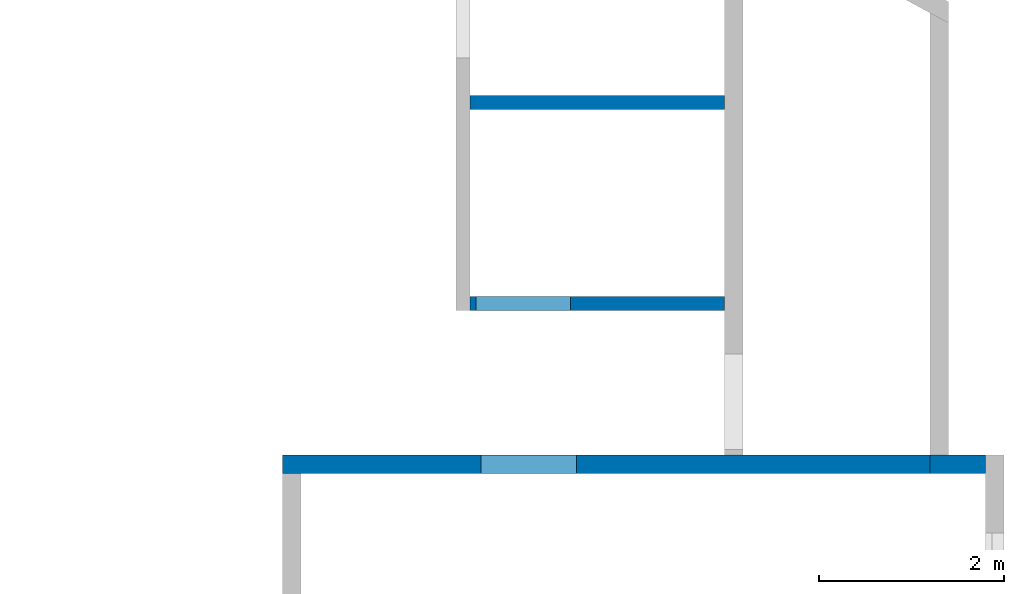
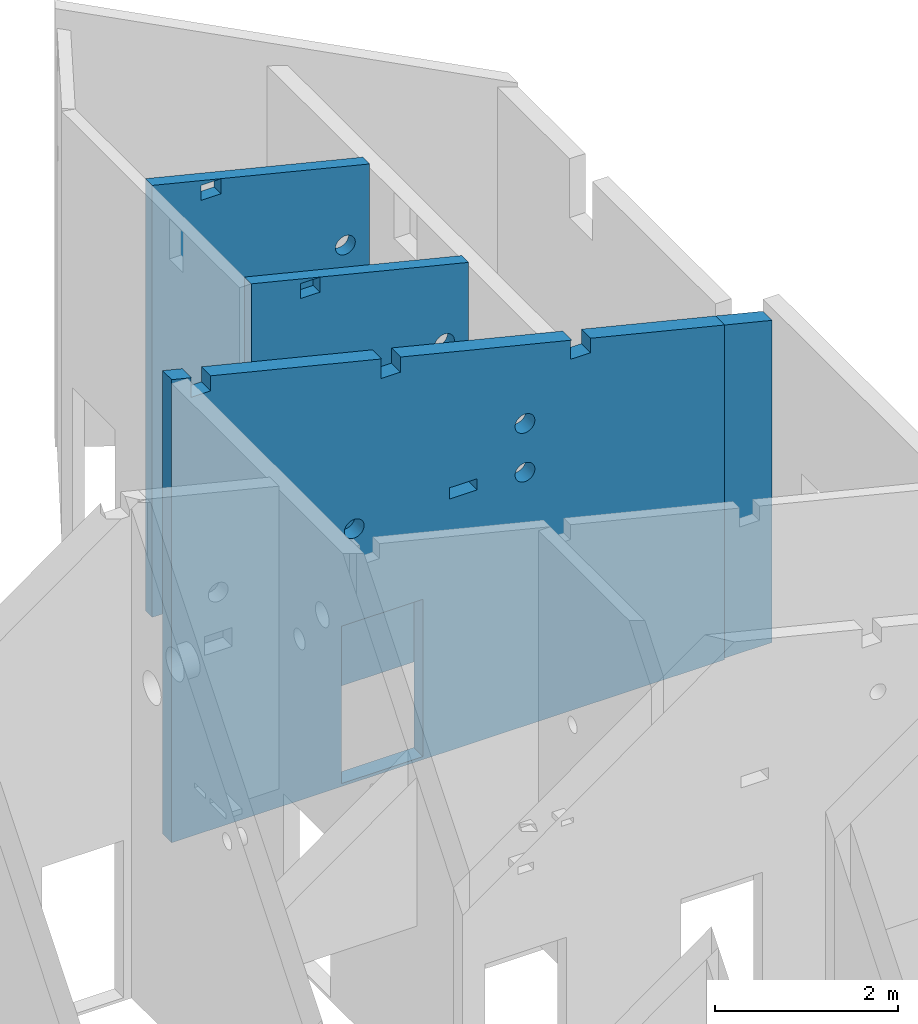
# One storey, part 11 of 13: 4 walls, 16 openings.
"""IFC2X3 building model written with IfcOpenShell, lengths in metres."""

from ifc_helpers import new_model, entity, si_unit, converted_unit, direction, frame, frame_2d, origin, origin_with_axes, place, context, subcontext, project, spatial, polyline, rectangle, outline, extrude, clip, halfspace, material, layer, layer_set, layer_usage, element, save


model = new_model("IFC2X3")

# Units and contexts
model_context = context("Model", 3, precision=1e-05, world=origin(), true_north=direction((-0.407059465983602, -0.913401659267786)))
body_context = subcontext(model_context, "Body", "Model", "MODEL_VIEW")
ifc_project = project(units=[si_unit("LENGTHUNIT", "METRE"), si_unit("AREAUNIT", "SQUARE_METRE"), si_unit("VOLUMEUNIT", "CUBIC_METRE"), si_unit("MASSUNIT", "GRAM", prefix="KILO"), converted_unit("PLANEANGLEUNIT", "DEGREE", entity("IfcPlaneAngleMeasure", 0.0174532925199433), si_unit("PLANEANGLEUNIT", "RADIAN"), dimensions=[0, 0, 0, 0, 0, 0, 0])], contexts=[model_context])

# Site, buildings, storey
site_placement = place(None, origin())
site = spatial("IfcSite", under=ifc_project, at=site_placement, Name="Site", CompositionType="ELEMENT")
building_1_placement = place(site_placement, origin())
building_1 = spatial("IfcBuilding", under=site, at=building_1_placement, Name="Site", CompositionType="COMPLEX")
building_2_placement = place(building_1_placement, origin())
building_2 = spatial("IfcBuilding", under=building_1, at=building_2_placement, Name="Bâtiments", CompositionType="ELEMENT")
storey_placement = place(building_2_placement, frame((0.0, 0.0, -0.14)))
storey = spatial("IfcBuildingStorey", under=building_2, at=storey_placement, Name="RDC", CompositionType="ELEMENT", Elevation=-0.14)

# Wall, openings
ifc_material_1 = material(Name="Mur_Maconnerie")
ifc_layer_1 = layer(ifc_material_1, 0.15)
ifc_layer_set_1 = layer_set([ifc_layer_1])
ifc_layer_usage_1 = layer_usage(ifc_layer_set_1, "AXIS2", "POSITIVE", 0.0)
wall_1_placement = place(storey_placement, frame((72.2539888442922, -1.33517329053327, 0.02)))
wall_1 = element("IfcWallStandardCase", 1, at=wall_1_placement, inside=storey, material=ifc_layer_usage_1, context=body_context, shape_type="Clipping", body=[
    clip(extrude(rectangle(XDim=2.74331442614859, YDim=0.15, at=frame_2d((1.37165721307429, 0.075), x_axis=(1.0, 0.0))), origin_with_axes(), (0.0, 0.0, 1.0), 5.764675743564), halfspace(frame((1.37165721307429, 0.075, 5.42776441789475), z_axis=(-0.238533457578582, 0.0, -0.971134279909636), x_axis=(0.971134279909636, 0.0, -0.238533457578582)), True)),
])
opening_1_placement = place(wall_1_placement, frame((1.08616814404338, 0.15, 0.12), z_axis=(0.0, -1.0, 0.0), x_axis=(0.0, 0.0, 1.0)))
element("IfcOpeningElement", 2, at=opening_1_placement, cuts=wall_1, Name="Baie de porte", ObjectType="Opening", context=body_context, shape_type="SweptSolid", body=[
    extrude(outline(polyline([(0.0, 1.02), (2.1, 1.02), (2.1, 0.0), (0.0, 0.0), (0.0, 1.02)])), origin_with_axes(), (0.0, 0.0, 1.0), 0.15),
])
opening_2_placement = place(wall_1_placement, frame((2.56315539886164, 0.149999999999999, 3.34), z_axis=(0.0, -1.0, 0.0), x_axis=(0.0, 0.0, 1.0)))
element("IfcOpeningElement", 3, at=opening_2_placement, cuts=wall_1, Name="CVC-076", ObjectType="Opening", context=body_context, shape_type="SweptSolid", body=[
    extrude(outline(polyline([(0.124999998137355, 0.25), (0.138066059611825, 0.249315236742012), (0.150988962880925, 0.24726844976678), (0.163627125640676, 0.243882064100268), (0.175842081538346, 0.239193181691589), (0.187500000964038, 0.233253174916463), (0.198473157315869, 0.226127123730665), (0.208641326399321, 0.217893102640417), (0.217893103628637, 0.208641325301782), (0.226127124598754, 0.19847315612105), (0.233253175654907, 0.187499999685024), (0.239193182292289, 0.175842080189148), (0.243882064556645, 0.163627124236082), (0.24726845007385, 0.15098896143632), (0.249315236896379, 0.138066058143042), (0.25, 0.125000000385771), (0.249315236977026, 0.11193394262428), (0.24726845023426, 0.0990110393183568), (0.243882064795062, 0.086372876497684), (0.2391931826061, 0.0741579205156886), (0.233253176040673, 0.0625000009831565), (0.22612712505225, 0.0515268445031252), (0.217893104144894, 0.0413586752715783), (0.208641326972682, 0.0321068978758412), (0.198473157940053, 0.0238728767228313), (0.187500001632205, 0.0167468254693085), (0.175842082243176, 0.0108068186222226), (0.163627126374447, 0.00611793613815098), (0.150988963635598, 0.00273155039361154), (0.138066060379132, 0.000684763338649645), (0.124999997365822, 0.0), (0.111933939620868, 0.000684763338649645), (0.0990110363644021, 0.00273155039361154), (0.0863728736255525, 0.00611793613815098), (0.0741579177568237, 0.0108068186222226), (0.0624999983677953, 0.0167468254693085), (0.0515268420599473, 0.0238728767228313), (0.0413586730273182, 0.0321068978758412), (0.0321068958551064, 0.0413586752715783), (0.0238728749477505, 0.0515268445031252), (0.0167468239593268, 0.0625000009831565), (0.0108068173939, 0.0741579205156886), (0.00611793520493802, 0.086372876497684), (0.0027315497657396, 0.0990110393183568), (0.000684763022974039, 0.11193394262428), (0.0, 0.125000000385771), (0.000684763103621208, 0.138066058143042), (0.00273154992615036, 0.15098896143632), (0.00611793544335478, 0.163627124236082), (0.0108068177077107, 0.175842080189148), (0.016746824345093, 0.187499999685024), (0.0238728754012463, 0.19847315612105), (0.0321068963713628, 0.208641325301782), (0.0413586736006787, 0.217893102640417), (0.0515268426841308, 0.226127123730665), (0.0624999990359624, 0.233253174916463), (0.0741579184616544, 0.239193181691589), (0.0863728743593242, 0.243882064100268), (0.0990110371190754, 0.24726844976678), (0.111933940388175, 0.249315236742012), (0.124999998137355, 0.25)])), origin_with_axes(), (0.0, 0.0, 1.0), 0.15),
])
opening_3_placement = place(wall_1_placement, frame((2.31315539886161, 0.0, 3.99), z_axis=(0.0, 1.0, 0.0), x_axis=(0.0, 0.0, 1.0)))
element("IfcOpeningElement", 4, at=opening_3_placement, cuts=wall_1, Name="CVC-072", ObjectType="Opening", context=body_context, shape_type="SweptSolid", body=[
    extrude(outline(polyline([(0.125, 0.0), (0.111933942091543, 0.000684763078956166), (0.09901103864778, 0.00273154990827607), (0.0863728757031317, 0.00611793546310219), (0.0741579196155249, 0.0108068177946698), (0.0625, 0.0167468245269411), (0.0515268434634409, 0.0238728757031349), (0.041358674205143, 0.0321068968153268), (0.0321068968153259, 0.0413586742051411), (0.0238728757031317, 0.0515268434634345), (0.0167468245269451, 0.0625), (0.0108068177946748, 0.0741579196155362), (0.00611793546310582, 0.0863728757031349), (0.00273154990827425, 0.09901103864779), (0.000684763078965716, 0.111933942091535), (0.0, 0.125), (0.000684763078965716, 0.138066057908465), (0.00273154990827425, 0.150988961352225), (0.00611793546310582, 0.163627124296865), (0.0108068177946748, 0.175842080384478), (0.0167468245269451, 0.1875), (0.0238728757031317, 0.198473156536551), (0.0321068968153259, 0.208641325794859), (0.0413586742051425, 0.217893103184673), (0.0515268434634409, 0.226127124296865), (0.0625, 0.233253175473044), (0.0741579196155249, 0.23919318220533), (0.0863728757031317, 0.243882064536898), (0.09901103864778, 0.247268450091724), (0.111933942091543, 0.249315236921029), (0.125, 0.25), (0.138066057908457, 0.249315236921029), (0.15098896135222, 0.247268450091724), (0.163627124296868, 0.243882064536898), (0.175842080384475, 0.23919318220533), (0.1875, 0.233253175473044), (0.198473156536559, 0.226127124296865), (0.208641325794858, 0.217893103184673), (0.217893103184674, 0.208641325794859), (0.226127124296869, 0.198473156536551), (0.233253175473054, 0.1875), (0.239193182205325, 0.175842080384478), (0.243882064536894, 0.163627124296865), (0.247268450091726, 0.150988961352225), (0.249315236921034, 0.138066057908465), (0.25, 0.125), (0.249315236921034, 0.111933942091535), (0.247268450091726, 0.09901103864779), (0.243882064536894, 0.0863728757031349), (0.239193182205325, 0.0741579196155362), (0.233253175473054, 0.0625), (0.226127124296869, 0.0515268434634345), (0.217893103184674, 0.0413586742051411), (0.208641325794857, 0.0321068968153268), (0.198473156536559, 0.0238728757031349), (0.1875, 0.0167468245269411), (0.175842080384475, 0.0108068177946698), (0.163627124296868, 0.00611793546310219), (0.15098896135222, 0.00273154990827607), (0.138066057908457, 0.000684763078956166), (0.125, 0.0)])), origin_with_axes(), (0.0, 0.0, 1.0), 0.15),
])
opening_4_placement = place(wall_1_placement, frame((0.618332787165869, 0.0, 5.35), z_axis=(0.0, 1.0, 0.0), x_axis=(0.0, 0.0, 1.0)))
element("IfcOpeningElement", 5, at=opening_4_placement, cuts=wall_1, Name="Percement dans mur", ObjectType="Opening", context=body_context, shape_type="SweptSolid", body=[
    extrude(outline(polyline([(0.0, 0.25), (0.2, 0.25), (0.2, 0.0), (0.0, 0.0), (0.0, 0.25)])), origin_with_axes(), (0.0, 0.0, 1.0), 0.15),
])
opening_5_placement = place(wall_1_placement, frame((1.48257735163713, 0.0, 3.44), z_axis=(0.0, 1.0, 0.0), x_axis=(0.0, 0.0, 1.0)))
element("IfcOpeningElement", 6, at=opening_5_placement, cuts=wall_1, Name="PB-RDC-22", ObjectType="Opening", context=body_context, shape_type="SweptSolid", body=[
    extrude(outline(polyline([(0.0, 0.35), (0.15, 0.35), (0.15, 0.0), (0.0, 0.0), (0.0, 0.35)])), origin_with_axes(), (0.0, 0.0, 1.0), 0.15),
])

ifc_material_2 = material(Name="Mur_Maconnerie")
ifc_layer_2 = layer(ifc_material_2, 0.15)
ifc_layer_set_2 = layer_set([ifc_layer_2])
ifc_layer_usage_2 = layer_usage(ifc_layer_set_2, "AXIS2", "POSITIVE", 0.0)
wall_2_placement = place(storey_placement, frame((72.2539888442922, 0.83056940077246, 0.02)))
wall_2 = element("IfcWallStandardCase", 7, at=wall_2_placement, inside=storey, material=ifc_layer_usage_2, context=body_context, shape_type="Clipping", body=[
    clip(extrude(rectangle(XDim=2.74331442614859, YDim=0.15, at=frame_2d((1.37165721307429, 0.075), x_axis=(1.0, 0.0))), origin_with_axes(), (0.0, 0.0, 1.0), 5.764675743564), halfspace(frame((1.37165721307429, 0.075, 5.42776441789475), z_axis=(-0.238533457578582, 0.0, -0.971134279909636), x_axis=(0.971134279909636, 0.0, -0.238533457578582)), True)),
])
opening_6_placement = place(wall_2_placement, frame((2.31315539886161, 1.81898940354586e-15, 3.34), z_axis=(0.0, 1.0, 0.0), x_axis=(0.0, 0.0, 1.0)))
element("IfcOpeningElement", 8, at=opening_6_placement, cuts=wall_2, Name="CVC-075", ObjectType="Opening", context=body_context, shape_type="SweptSolid", body=[
    extrude(outline(polyline([(0.125, 0.0), (0.111933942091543, 0.000684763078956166), (0.09901103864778, 0.00273154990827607), (0.0863728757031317, 0.00611793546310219), (0.0741579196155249, 0.0108068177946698), (0.0625, 0.0167468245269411), (0.0515268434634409, 0.0238728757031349), (0.041358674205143, 0.0321068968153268), (0.0321068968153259, 0.0413586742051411), (0.0238728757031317, 0.0515268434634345), (0.0167468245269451, 0.0625), (0.0108068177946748, 0.0741579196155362), (0.00611793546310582, 0.0863728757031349), (0.00273154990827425, 0.09901103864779), (0.000684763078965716, 0.111933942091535), (0.0, 0.125), (0.000684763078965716, 0.138066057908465), (0.00273154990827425, 0.150988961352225), (0.00611793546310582, 0.163627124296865), (0.0108068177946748, 0.175842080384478), (0.0167468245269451, 0.1875), (0.0238728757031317, 0.198473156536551), (0.0321068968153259, 0.208641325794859), (0.0413586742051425, 0.217893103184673), (0.0515268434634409, 0.226127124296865), (0.0625, 0.233253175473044), (0.0741579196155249, 0.23919318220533), (0.0863728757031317, 0.243882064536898), (0.09901103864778, 0.247268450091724), (0.111933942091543, 0.249315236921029), (0.125, 0.25), (0.138066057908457, 0.249315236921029), (0.15098896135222, 0.247268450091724), (0.163627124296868, 0.243882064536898), (0.175842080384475, 0.23919318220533), (0.1875, 0.233253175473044), (0.198473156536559, 0.226127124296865), (0.208641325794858, 0.217893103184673), (0.217893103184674, 0.208641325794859), (0.226127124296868, 0.198473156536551), (0.233253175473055, 0.1875), (0.239193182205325, 0.175842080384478), (0.243882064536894, 0.163627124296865), (0.247268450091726, 0.150988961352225), (0.249315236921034, 0.138066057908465), (0.25, 0.125), (0.249315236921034, 0.111933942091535), (0.247268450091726, 0.09901103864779), (0.243882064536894, 0.0863728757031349), (0.239193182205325, 0.0741579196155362), (0.233253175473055, 0.0625), (0.226127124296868, 0.0515268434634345), (0.217893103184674, 0.0413586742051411), (0.208641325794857, 0.0321068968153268), (0.198473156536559, 0.0238728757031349), (0.1875, 0.0167468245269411), (0.175842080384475, 0.0108068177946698), (0.163627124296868, 0.00611793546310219), (0.15098896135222, 0.00273154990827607), (0.138066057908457, 0.000684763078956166), (0.125, 0.0)])), origin_with_axes(), (0.0, 0.0, 1.0), 0.15),
])
opening_7_placement = place(wall_2_placement, frame((2.56315539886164, 0.15, 3.99), z_axis=(0.0, -1.0, 0.0), x_axis=(0.0, 0.0, 1.0)))
element("IfcOpeningElement", 9, at=opening_7_placement, cuts=wall_2, Name="CVC-071", ObjectType="Opening", context=body_context, shape_type="SweptSolid", body=[
    extrude(outline(polyline([(0.124999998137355, 0.25), (0.138066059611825, 0.249315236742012), (0.150988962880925, 0.24726844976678), (0.163627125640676, 0.243882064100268), (0.175842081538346, 0.239193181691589), (0.187500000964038, 0.233253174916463), (0.198473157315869, 0.226127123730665), (0.208641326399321, 0.217893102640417), (0.217893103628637, 0.208641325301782), (0.226127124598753, 0.19847315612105), (0.233253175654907, 0.187499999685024), (0.239193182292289, 0.175842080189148), (0.243882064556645, 0.163627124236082), (0.247268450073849, 0.15098896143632), (0.249315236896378, 0.138066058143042), (0.25, 0.125000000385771), (0.249315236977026, 0.11193394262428), (0.24726845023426, 0.0990110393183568), (0.243882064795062, 0.086372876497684), (0.2391931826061, 0.0741579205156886), (0.233253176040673, 0.0625000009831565), (0.226127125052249, 0.0515268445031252), (0.217893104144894, 0.0413586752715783), (0.208641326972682, 0.0321068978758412), (0.198473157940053, 0.0238728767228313), (0.187500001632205, 0.0167468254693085), (0.175842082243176, 0.0108068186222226), (0.163627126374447, 0.00611793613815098), (0.150988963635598, 0.00273155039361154), (0.138066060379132, 0.000684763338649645), (0.124999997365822, 0.0), (0.111933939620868, 0.000684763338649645), (0.0990110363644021, 0.00273155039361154), (0.0863728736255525, 0.00611793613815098), (0.0741579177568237, 0.0108068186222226), (0.0624999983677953, 0.0167468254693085), (0.0515268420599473, 0.0238728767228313), (0.0413586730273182, 0.0321068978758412), (0.0321068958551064, 0.0413586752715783), (0.0238728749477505, 0.0515268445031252), (0.0167468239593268, 0.0625000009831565), (0.0108068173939, 0.0741579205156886), (0.00611793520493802, 0.086372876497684), (0.0027315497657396, 0.0990110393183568), (0.000684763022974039, 0.11193394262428), (0.0, 0.125000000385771), (0.000684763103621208, 0.138066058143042), (0.00273154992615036, 0.15098896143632), (0.00611793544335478, 0.163627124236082), (0.0108068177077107, 0.175842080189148), (0.016746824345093, 0.187499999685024), (0.0238728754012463, 0.19847315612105), (0.0321068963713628, 0.208641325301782), (0.0413586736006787, 0.217893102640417), (0.0515268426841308, 0.226127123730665), (0.0624999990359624, 0.233253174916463), (0.0741579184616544, 0.239193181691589), (0.0863728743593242, 0.243882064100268), (0.0990110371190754, 0.24726844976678), (0.111933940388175, 0.249315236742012), (0.124999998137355, 0.25)])), origin_with_axes(), (0.0, 0.0, 1.0), 0.15),
])
opening_8_placement = place(wall_2_placement, frame((0.618317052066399, 0.0, 5.35), z_axis=(0.0, 1.0, 0.0), x_axis=(0.0, 0.0, 1.0)))
element("IfcOpeningElement", 10, at=opening_8_placement, cuts=wall_2, Name="Percement dans mur", ObjectType="Opening", context=body_context, shape_type="SweptSolid", body=[
    extrude(outline(polyline([(0.0, 0.25), (0.2, 0.25), (0.2, 0.0), (0.0, 0.0), (0.0, 0.25)])), origin_with_axes(), (0.0, 0.0, 1.0), 0.15),
])

ifc_material_3 = material(Name="Béton")
ifc_layer_3 = layer(ifc_material_3, 0.199999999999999)
ifc_layer_set_3 = layer_set([ifc_layer_3])
ifc_layer_usage_3 = layer_usage(ifc_layer_set_3, "AXIS2", "POSITIVE", -0.2)
wall_3_placement = place(storey_placement, frame((70.2328423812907, -3.0956538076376, 0.1), z_axis=(0.0, 0.0, 1.0), x_axis=(0.999999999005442, 4.45995151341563e-05, 0.0)))
wall_3 = element("IfcWallStandardCase", 11, at=wall_3_placement, inside=storey, material=ifc_layer_usage_3, context=body_context, shape_type="Clipping", body=[
    clip(extrude(outline(polyline([(0.0, 0.0), (6.98042160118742, 5.55111512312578e-20), (6.98042160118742, 0.199999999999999), (8.91990303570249e-06, 0.199999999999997), (0.0, 0.0)])), origin_with_axes(), (0.0, 0.0, 1.0), 6.18111692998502), halfspace(frame((3.49021303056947, 0.0999999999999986, 5.32383948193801), z_axis=(-0.238533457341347, 1.06384765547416e-05, -0.971134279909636), x_axis=(0.971134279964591, 1.35525271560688e-20, -0.238533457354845)), True)),
])
opening_9_placement = place(wall_3_placement, frame((2.42908839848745, 0.199999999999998, 3.26000000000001), z_axis=(-1.13004716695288e-12, -1.0, 0.0), x_axis=(0.0, 0.0, 1.0)))
element("IfcOpeningElement", 12, at=opening_9_placement, cuts=wall_3, Name="CVC-077", ObjectType="Opening", context=body_context, shape_type="SweptSolid", body=[
    extrude(outline(polyline([(0.124999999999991, 0.250000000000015), (0.138066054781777, 0.249315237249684), (0.150988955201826, 0.247268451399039), (0.163627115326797, 0.243882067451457), (0.175842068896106, 0.239193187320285), (0.187499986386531, 0.23325318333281), (0.198473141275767, 0.226127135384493), (0.208641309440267, 0.217893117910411), (0.217893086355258, 0.208641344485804), (0.226127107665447, 0.198473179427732), (0.233253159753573, 0.187500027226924), (0.239193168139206, 0.175842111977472), (0.24388205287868, 0.1636271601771), (0.24726844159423, 0.150989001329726), (0.249315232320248, 0.138066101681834), (0.249999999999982, 0.125000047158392), (0.249315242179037, 0.111933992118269), (0.247268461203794, 0.0990110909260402), (0.243882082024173, 0.0863729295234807), (0.239193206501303, 0.0741579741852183), (0.233253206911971, 0.0625000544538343), (0.226127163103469, 0.0515268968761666), (0.217893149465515, 0.0413587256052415), (0.208641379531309, 0.0321069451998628), (0.198473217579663, 0.0238729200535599), (0.187500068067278, 0.0167468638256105), (0.175842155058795, 0.0108068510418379), (0.163627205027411, 0.00611796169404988), (0.150989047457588, 0.00273156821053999), (0.138066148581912, 0.000684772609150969), (0.124999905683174, 0.0), (0.111933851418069, 0.000684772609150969), (0.0990109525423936, 0.00273156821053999), (0.0863727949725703, 0.00611796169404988), (0.0741578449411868, 0.0108068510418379), (0.0624999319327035, 0.0167468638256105), (0.0515267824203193, 0.0238729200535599), (0.0413586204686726, 0.0321069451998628), (0.032106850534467, 0.0413587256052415), (0.0238728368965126, 0.0515268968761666), (0.0167467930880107, 0.0625000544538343), (0.0108067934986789, 0.0741579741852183), (0.00611791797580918, 0.0863729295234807), (0.00273153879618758, 0.0990110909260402), (0.000684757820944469, 0.111933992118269), (0.0, 0.125000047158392), (0.00068476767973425, 0.138066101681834), (0.00273155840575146, 0.150989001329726), (0.00611794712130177, 0.1636271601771), (0.0108068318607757, 0.175842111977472), (0.0167468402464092, 0.187500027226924), (0.0238728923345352, 0.198473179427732), (0.0321069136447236, 0.208641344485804), (0.0413586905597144, 0.217893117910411), (0.0515268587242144, 0.226127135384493), (0.0625000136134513, 0.23325318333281), (0.0741579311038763, 0.239193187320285), (0.0863728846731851, 0.243882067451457), (0.0990110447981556, 0.247268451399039), (0.111933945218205, 0.249315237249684), (0.124999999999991, 0.250000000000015)])), origin_with_axes(), (0.0, 0.0, 1.0), 0.199999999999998),
])
opening_10_placement = place(wall_3_placement, frame((4.33430632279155, 3.36947136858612e-15, 3.26000000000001), z_axis=(1.13232090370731e-12, 1.0, 0.0), x_axis=(0.0, 0.0, 1.0)))
element("IfcOpeningElement", 13, at=opening_10_placement, cuts=wall_3, Name="CVC-077", ObjectType="Opening", context=body_context, shape_type="SweptSolid", body=[
    extrude(outline(polyline([(0.124999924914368, 0.0), (0.111933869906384, 0.000684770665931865), (0.0990109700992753, 0.00273156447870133), (0.0863728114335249, 0.00611795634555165), (0.0741578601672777, 0.0108068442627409), (0.062499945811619, 0.0167468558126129), (0.0515267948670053, 0.0238729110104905), (0.0413586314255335, 0.0321069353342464), (0.0321068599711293, 0.041358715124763), (0.0238728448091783, 0.0515268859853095), (0.0167467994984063, 0.0625000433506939), (0.0108067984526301, 0.0741579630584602), (0.00611792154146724, 0.0863729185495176), (0.00273154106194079, 0.0990110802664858), (0.000684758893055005, 0.111933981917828), (0.0, 0.125000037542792), (0.000684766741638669, 0.138066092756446), (0.00273155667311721, 0.150988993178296), (0.00611794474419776, 0.163627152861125), (0.0108068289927, 0.175842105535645), (0.016746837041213, 0.187500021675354), (0.0238728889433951, 0.19847317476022), (0.0321069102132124, 0.208641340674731), (0.0413586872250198, 0.217893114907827), (0.0515268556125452, 0.226127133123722), (0.0625000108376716, 0.233253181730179), (0.074157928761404, 0.239193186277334), (0.0863728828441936, 0.243882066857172), (0.0990110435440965, 0.247268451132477), (0.111933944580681, 0.249315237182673), (0.124999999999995, 0.25), (0.138066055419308, 0.249315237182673), (0.150988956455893, 0.247268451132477), (0.163627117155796, 0.243882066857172), (0.175842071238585, 0.239193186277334), (0.187499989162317, 0.233253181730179), (0.198473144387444, 0.226127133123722), (0.208641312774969, 0.217893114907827), (0.217893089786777, 0.208641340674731), (0.226127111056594, 0.19847317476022), (0.233253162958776, 0.187500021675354), (0.239193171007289, 0.175842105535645), (0.243882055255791, 0.163627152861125), (0.247268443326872, 0.150988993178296), (0.24931523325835, 0.138066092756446), (0.249999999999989, 0.125000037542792), (0.249315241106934, 0.111933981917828), (0.247268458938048, 0.0990110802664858), (0.243882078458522, 0.0863729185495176), (0.239193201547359, 0.0741579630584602), (0.233253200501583, 0.0625000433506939), (0.226127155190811, 0.0515268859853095), (0.21789314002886, 0.041358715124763), (0.208641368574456, 0.0321069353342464), (0.198473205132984, 0.0238729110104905), (0.18750005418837, 0.0167468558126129), (0.175842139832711, 0.0108068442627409), (0.163627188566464, 0.00611795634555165), (0.150989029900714, 0.00273156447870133), (0.138066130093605, 0.000684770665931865), (0.124999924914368, 0.0)])), origin_with_axes(), (0.0, 0.0, 1.0), 0.199999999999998),
])
opening_11_placement = place(wall_3_placement, frame((4.58430632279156, 0.200000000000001, 3.91000000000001), z_axis=(-1.13232090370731e-12, -1.0, 0.0), x_axis=(0.0, 0.0, 1.0)))
element("IfcOpeningElement", 14, at=opening_11_placement, cuts=wall_3, Name="CVC-073", ObjectType="Opening", context=body_context, shape_type="SweptSolid", body=[
    extrude(outline(polyline([(0.124999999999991, 0.25), (0.138066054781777, 0.249315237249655), (0.150988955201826, 0.247268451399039), (0.163627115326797, 0.243882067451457), (0.175842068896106, 0.23919318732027), (0.187499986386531, 0.233253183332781), (0.198473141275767, 0.226127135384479), (0.208641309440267, 0.217893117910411), (0.217893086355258, 0.20864134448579), (0.226127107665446, 0.198473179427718), (0.233253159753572, 0.187500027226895), (0.239193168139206, 0.175842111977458), (0.24388205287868, 0.163627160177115), (0.24726844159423, 0.150989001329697), (0.249315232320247, 0.138066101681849), (0.249999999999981, 0.125000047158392), (0.249315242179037, 0.111933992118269), (0.247268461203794, 0.0990110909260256), (0.243882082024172, 0.0863729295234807), (0.239193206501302, 0.0741579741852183), (0.23325320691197, 0.0625000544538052), (0.226127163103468, 0.051526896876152), (0.217893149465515, 0.0413587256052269), (0.208641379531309, 0.0321069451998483), (0.198473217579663, 0.0238729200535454), (0.187500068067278, 0.0167468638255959), (0.175842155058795, 0.0108068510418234), (0.163627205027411, 0.00611796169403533), (0.150989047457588, 0.00273156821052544), (0.138066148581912, 0.000684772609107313), (0.124999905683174, 0.0), (0.111933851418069, 0.000684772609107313), (0.0990109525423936, 0.00273156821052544), (0.0863727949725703, 0.00611796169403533), (0.0741578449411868, 0.0108068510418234), (0.0624999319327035, 0.0167468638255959), (0.0515267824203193, 0.0238729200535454), (0.0413586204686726, 0.0321069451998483), (0.032106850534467, 0.0413587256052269), (0.0238728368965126, 0.051526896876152), (0.0167467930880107, 0.0625000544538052), (0.0108067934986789, 0.0741579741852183), (0.00611791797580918, 0.0863729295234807), (0.00273153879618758, 0.0990110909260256), (0.000684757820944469, 0.111933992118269), (0.0, 0.125000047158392), (0.00068476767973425, 0.138066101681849), (0.00273155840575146, 0.150989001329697), (0.00611794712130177, 0.163627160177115), (0.0108068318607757, 0.175842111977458), (0.0167468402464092, 0.187500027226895), (0.0238728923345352, 0.198473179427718), (0.0321069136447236, 0.20864134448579), (0.0413586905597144, 0.217893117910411), (0.0515268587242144, 0.226127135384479), (0.0625000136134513, 0.233253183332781), (0.0741579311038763, 0.23919318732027), (0.0863728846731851, 0.243882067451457), (0.0990110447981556, 0.247268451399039), (0.111933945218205, 0.249315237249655), (0.124999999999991, 0.25)])), origin_with_axes(), (0.0, 0.0, 1.0), 0.199999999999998),
])
opening_12_placement = place(wall_3_placement, frame((0.241675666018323, -1.30721822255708e-16, 5.86), z_axis=(1.13061560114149e-12, 1.0, 0.0), x_axis=(0.0, 0.0, 1.0)))
element("IfcOpeningElement", 15, at=opening_12_placement, cuts=wall_3, Name="Percement dans mur", ObjectType="Opening", context=body_context, shape_type="SweptSolid", body=[
    extrude(outline(polyline([(0.0, 0.250000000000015), (0.26, 0.250000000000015), (0.26, 0.0), (0.0, 0.0), (0.0, 0.250000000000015)])), origin_with_axes(), (0.0, 0.0, 1.0), 0.199999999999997),
])
opening_13_placement = place(wall_3_placement, frame((2.63949236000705, -2.48495668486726e-16, 5.27), z_axis=(1.13004716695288e-12, 1.0, 0.0), x_axis=(0.0, 0.0, 1.0)))
element("IfcOpeningElement", 16, at=opening_13_placement, cuts=wall_3, Name="Percement dans mur", ObjectType="Opening", context=body_context, shape_type="SweptSolid", body=[
    extrude(outline(polyline([(0.0, 0.250000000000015), (0.26, 0.250000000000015), (0.26, 0.0), (0.0, 0.0), (0.0, 0.250000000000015)])), origin_with_axes(), (0.0, 0.0, 1.0), 0.199999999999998),
])
opening_14_placement = place(wall_3_placement, frame((5.03724408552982, -1.84102733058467e-16, 4.69), z_axis=(1.1323209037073e-12, 1.0, 0.0), x_axis=(0.0, 0.0, 1.0)))
element("IfcOpeningElement", 17, at=opening_14_placement, cuts=wall_3, Name="Percement dans mur", ObjectType="Opening", context=body_context, shape_type="SweptSolid", body=[
    extrude(outline(polyline([(0.0, 0.249999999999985), (0.25, 0.249999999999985), (0.25, 0.0), (0.0, 0.0), (0.0, 0.249999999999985)])), origin_with_axes(), (0.0, 0.0, 1.0), 0.199999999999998),
])
opening_15_placement = place(wall_3_placement, frame((3.50471556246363, -7.78266340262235e-17, 3.36), z_axis=(-1.34377842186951e-12, 1.0, 0.0), x_axis=(0.0, 0.0, 1.0)))
element("IfcOpeningElement", 18, at=opening_15_placement, cuts=wall_3, Name="PB-RDC-28", ObjectType="Opening", context=body_context, shape_type="SweptSolid", body=[
    extrude(outline(polyline([(0.0, 0.35), (0.15, 0.35), (0.15, 0.0), (0.0, 0.0), (0.0, 0.35)])), origin_with_axes(), (0.0, 0.0, 1.0), 0.199999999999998),
])
opening_16_placement = place(wall_3_placement, frame((2.1413406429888, 2.47676879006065e-16, 0.04), z_axis=(-3.81760401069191e-12, 1.0, 0.0), x_axis=(0.0, 0.0, 1.0)))
element("IfcOpeningElement", 19, at=opening_16_placement, cuts=wall_3, Name="Baie de porte", ObjectType="Opening", context=body_context, shape_type="SweptSolid", body=[
    extrude(outline(polyline([(0.0, 1.02999999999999), (2.1, 1.02999999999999), (2.1, 0.0), (0.0, 0.0), (0.0, 1.02999999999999)])), origin_with_axes(), (0.0, 0.0, 1.0), 0.199999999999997),
])

# Wall
ifc_material_4 = material(Name="Béton")
ifc_layer_4 = layer(ifc_material_4, 0.199999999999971)
ifc_layer_set_4 = layer_set([ifc_layer_4])
ifc_layer_usage_4 = layer_usage(ifc_layer_set_4, "AXIS2", "POSITIVE", -0.199999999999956)
wall_4_placement = place(storey_placement, frame((77.2132550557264, -3.09534248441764, 0.12), z_axis=(0.0, 0.0, 1.0), x_axis=(0.999999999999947, -3.26093849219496e-07, 0.0)))
element("IfcWallStandardCase", 20, at=wall_4_placement, inside=storey, material=ifc_layer_usage_4, context=body_context, shape_type="Clipping", body=[
    clip(extrude(outline(polyline([(9.35777874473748e-11, 1.956094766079e-07), (0.599856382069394, 1.956094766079e-07), (0.599856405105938, 0.200000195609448), (-6.52188336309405e-08, 0.200000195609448), (9.35777874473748e-11, 1.956094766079e-07)])), frame((-9.35777874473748e-11, -1.956094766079e-07, 0.0), z_axis=(0.0, 0.0, 1.0), x_axis=(1.0, 0.0, 0.0)), (0.0, 0.0, 1.0), 4.44656312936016), halfspace(frame((0.299928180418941, 0.0999999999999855, 4.37289369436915), z_axis=(-0.238533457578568, -7.77842942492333e-08, -0.971134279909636), x_axis=(0.971134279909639, -5.29395592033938e-23, -0.238533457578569)), True)),
])

save(model, "model.ifc")
